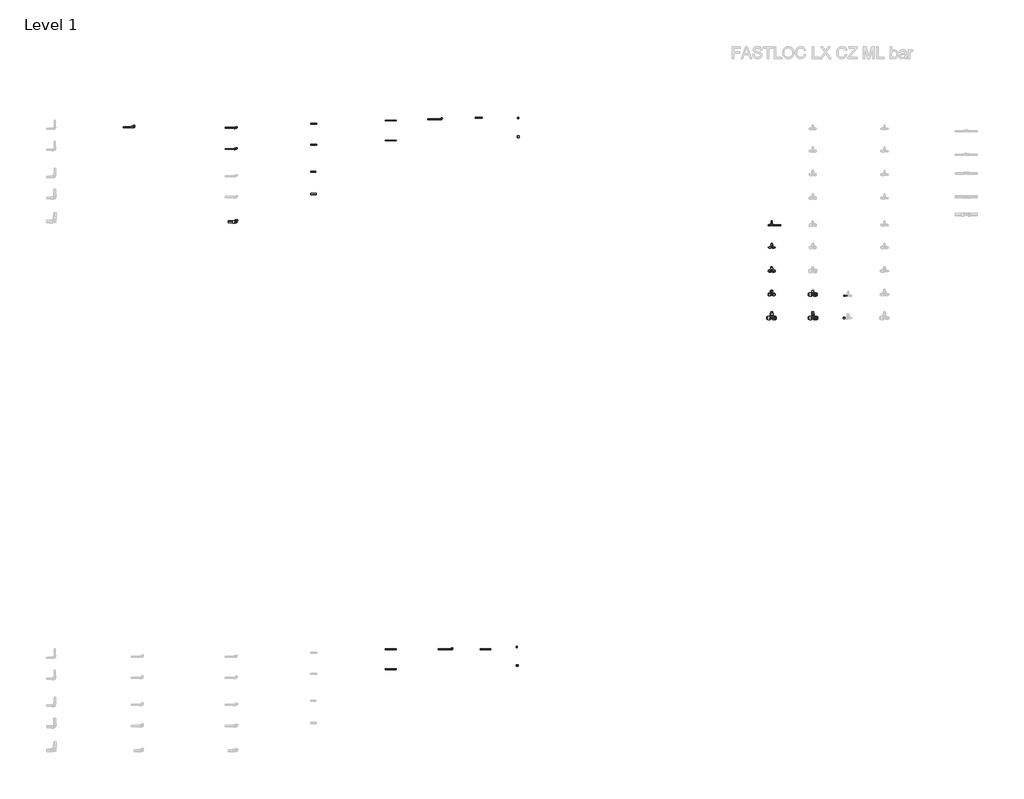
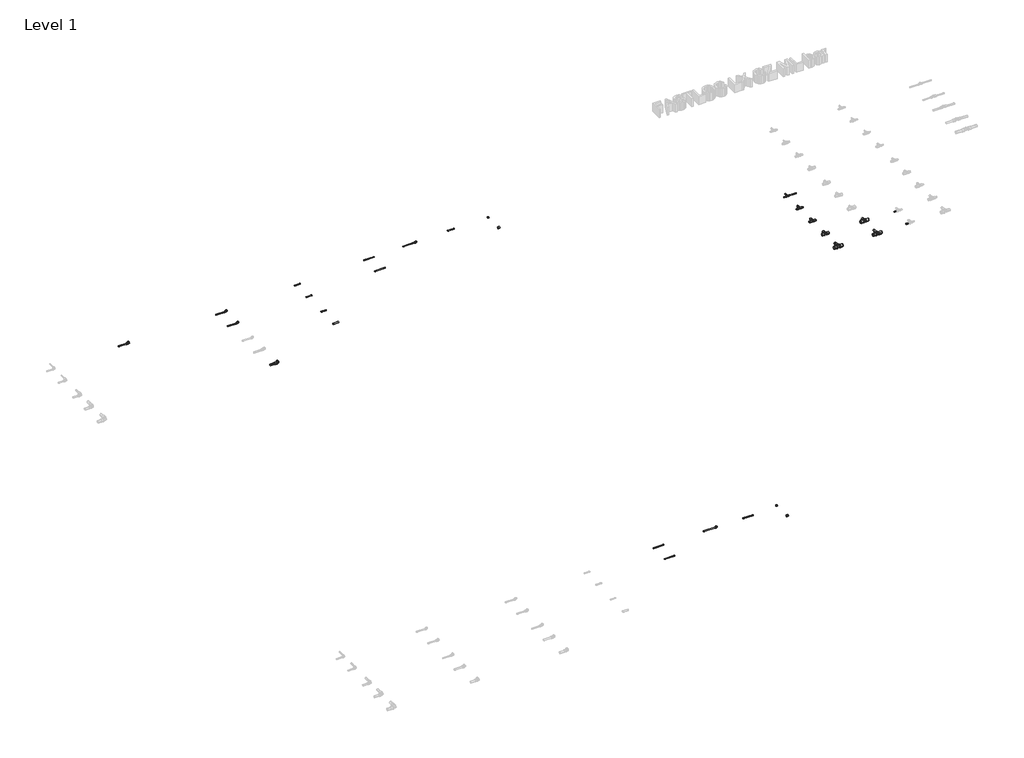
# One storey, part 28 of 78: 40 pipe segments, 17 pipe fittings.
"""IFC4 building model written with IfcOpenShell, lengths in millimetres."""

from ifc_helpers import new_model, si_unit, point, frame, frame_2d, origin, place, context, project, spatial, circle_curve, trimmed, segment, composite_curve, outline, extrude, transform, mapped, element, save
from components import pipe_fitting_ec6341fa, pipe_fitting_8d4eabeb, pipe_fitting_91101529, pipe_fitting_d1609a9c, pipe_fitting_c3764643, pipe_fitting_5e5f22e4, pipe_fitting_bded02bd, pipe_fitting_da5243fc, pipe_fitting_29102c59, pipe_fitting_564e9d2e, pipe_fitting_15165f03, pipe_fitting_7e3be5b8, pipe_fitting_24e9e25e

model = new_model("IFC4")

# Units and contexts
model_context = context("Model", 3, world=origin())
ifc_project = project(units=[si_unit("LENGTHUNIT", "METRE", prefix="MILLI")], contexts=[model_context])

# Site, building, storey
site = spatial("IfcSite", under=ifc_project)
building = spatial("IfcBuilding", under=site)
storey = spatial("IfcBuildingStorey", under=building, Name="Level 1", Elevation=0.0)

# Pipe fittings
placement = place(None, origin())
pipe_fitting_shape = pipe_fitting_ec6341fa(model_context)
element("IfcPipeFitting", 1, ObjectType="FASTLOC_Blanking plug LX : FSL Bp LX HU", at=placement, inside=storey, context=model_context, shape_type="MappedRepresentation", body=[
    mapped(pipe_fitting_shape, transform((19415.4857845, -1056.0968766, 0.0), x_axis=(1.0, 0.0, 0.0), y_axis=(0.0, 1.0, 0.0), z_axis=(0.0, 0.0, 1.0))),
])
element("IfcPipeFitting", 2, ObjectType="FASTLOC_Blanking plug LX : FSL Bp LX UA", at=placement, inside=storey, context=model_context, shape_type="MappedRepresentation", body=[
    mapped(pipe_fitting_shape, transform((19395.4857845, -10056.0968766, 0.0), x_axis=(1.0, 0.0, 0.0), y_axis=(0.0, 1.0, 0.0), z_axis=(0.0, 0.0, 1.0))),
])
pipe_fitting_2_shape = pipe_fitting_8d4eabeb(model_context)
element("IfcPipeFitting", 3, ObjectType="FASTLOC_Elbow with female thread LX : FSL A internal HU", at=placement, inside=storey, context=model_context, shape_type="MappedRepresentation", body=[
    mapped(pipe_fitting_2_shape, transform((14636.9744513, -1224.4914884, 0.0), x_axis=(1.0, 0.0, 0.0), y_axis=(0.0, 1.0, 0.0), z_axis=(0.0, 0.0, 1.0))),
])
element("IfcPipeFitting", 4, ObjectType="FASTLOC_Elbow with female thread LX : FSL A internal HU", at=placement, inside=storey, context=model_context, shape_type="MappedRepresentation", body=[
    mapped(pipe_fitting_2_shape, transform((14636.9744513, -1584.4914884, 0.0), x_axis=(1.0, 0.0, 0.0), y_axis=(0.0, 1.0, 0.0), z_axis=(0.0, 0.0, 1.0))),
])
pipe_fitting_3_shape = pipe_fitting_91101529(model_context)
element("IfcPipeFitting", 5, ObjectType="FASTLOC_Elbow with male thread G LX : FSL A internal HU", at=placement, inside=storey, context=model_context, shape_type="MappedRepresentation", body=[
    mapped(pipe_fitting_3_shape, transform((18126.4652849, -1078.1248705, 0.0), x_axis=(1.0, 0.0, 0.0), y_axis=(0.0, 1.0, 0.0), z_axis=(0.0, 0.0, 1.0))),
])
element("IfcPipeFitting", 6, ObjectType="FASTLOC_Elbow with male thread G LX : FSL A internal UA", at=placement, inside=storey, context=model_context, shape_type="MappedRepresentation", body=[
    mapped(pipe_fitting_3_shape, transform((18309.8872386, -10096.2087381, 0.0), x_axis=(1.0, 0.0, 0.0), y_axis=(0.0, 1.0, 0.0), z_axis=(0.0, 0.0, 1.0))),
])
pipe_fitting_4_shape = pipe_fitting_d1609a9c(model_context)
element("IfcPipeFitting", 7, ObjectType="FASTLOC_T-piece_LX : FSL T-Piece LX CZ", at=placement, inside=storey, context=model_context, shape_type="MappedRepresentation", body=[
    mapped(pipe_fitting_4_shape, transform((23743.8683677, -2880.2405791, 0.0), x_axis=(1.0, 0.0, 0.0), y_axis=(0.0, 1.0, 0.0), z_axis=(0.0, 0.0, 1.0))),
])
pipe_fitting_5_shape = pipe_fitting_c3764643(model_context)
element("IfcPipeFitting", 8, ObjectType="FASTLOC_Elbow with female thread LX : FSL A internal HU", at=placement, inside=storey, context=model_context, shape_type="MappedRepresentation", body=[
    mapped(pipe_fitting_5_shape, transform((14636.9744513, -2824.4914884, 0.0), x_axis=(1.0, 0.0, 0.0), y_axis=(0.0, 1.0, 0.0), z_axis=(0.0, 0.0, 1.0))),
])
pipe_fitting_6_shape = pipe_fitting_5e5f22e4(model_context)
element("IfcPipeFitting", 9, ObjectType="FASTLOC_Elbow with male thread LX : FSL A internal HU", at=placement, inside=storey, context=model_context, shape_type="MappedRepresentation", body=[
    mapped(pipe_fitting_6_shape, transform((12895.0981783, -1211.4287043, 0.0), x_axis=(1.0, 0.0, 0.0), y_axis=(0.0, 1.0, 0.0), z_axis=(0.0, 0.0, 1.0))),
])
pipe_fitting_7_shape = pipe_fitting_bded02bd(model_context)
element("IfcPipeFitting", 10, ObjectType="FASTLOC_T-piece_LX : FSL T-Piece LX CZ", at=placement, inside=storey, context=model_context, shape_type="MappedRepresentation", body=[
    mapped(pipe_fitting_7_shape, transform((23743.8683677, -3260.2405791, 0.0), x_axis=(1.0, 0.0, 0.0), y_axis=(0.0, 1.0, 0.0), z_axis=(0.0, 0.0, 1.0))),
])
pipe_fitting_8_shape = pipe_fitting_da5243fc(model_context)
element("IfcPipeFitting", 11, ObjectType="FASTLOC_T-piece_LX : FSL T-Piece LX CZ", at=placement, inside=storey, context=model_context, shape_type="MappedRepresentation", body=[
    mapped(pipe_fitting_8_shape, transform((23743.8683677, -3660.2405791, 0.0), x_axis=(1.0, 0.0, 0.0), y_axis=(0.0, 1.0, 0.0), z_axis=(0.0, 0.0, 1.0))),
])
pipe_fitting_9_shape = pipe_fitting_29102c59(model_context)
element("IfcPipeFitting", 12, ObjectType="FASTLOC_T-piece_LX : FSL T-Piece LX CZ", at=placement, inside=storey, context=model_context, shape_type="MappedRepresentation", body=[
    mapped(pipe_fitting_9_shape, transform((23743.8683677, -4060.2405791, 0.0), x_axis=(1.0, 0.0, 0.0), y_axis=(0.0, 1.0, 0.0), z_axis=(0.0, 0.0, 1.0))),
])
pipe_fitting_10_shape = pipe_fitting_564e9d2e(model_context)
element("IfcPipeFitting", 13, ObjectType="FASTLOC_T-piece_LX : FSL T-Piece LX CZ", at=placement, inside=storey, context=model_context, shape_type="MappedRepresentation", body=[
    mapped(pipe_fitting_10_shape, transform((23743.8683677, -4460.2405791, 0.0), x_axis=(1.0, 0.0, 0.0), y_axis=(0.0, 1.0, 0.0), z_axis=(0.0, 0.0, 1.0))),
])
pipe_fitting_11_shape = pipe_fitting_15165f03(model_context)
element("IfcPipeFitting", 14, ObjectType="FASTLOC_T-piece_LX : FSL T-Piece LX CZ", at=placement, inside=storey, context=model_context, shape_type="MappedRepresentation", body=[
    mapped(pipe_fitting_11_shape, transform((24443.8683677, -4060.2405791, 0.0), x_axis=(1.0, 0.0, 0.0), y_axis=(0.0, 1.0, 0.0), z_axis=(0.0, 0.0, 1.0))),
])
pipe_fitting_12_shape = pipe_fitting_7e3be5b8(model_context)
element("IfcPipeFitting", 15, ObjectType="FASTLOC_T-piece_LX : FSL T-Piece LX CZ", at=placement, inside=storey, context=model_context, shape_type="MappedRepresentation", body=[
    mapped(pipe_fitting_12_shape, transform((24443.8683677, -4460.2405791, 0.0), x_axis=(1.0, 0.0, 0.0), y_axis=(0.0, 1.0, 0.0), z_axis=(0.0, 0.0, 1.0))),
])
pipe_fitting_13_shape = pipe_fitting_24e9e25e(model_context)
element("IfcPipeFitting", 16, ObjectType="FASTLOC_Blanking plug LX : FSL Bp LX UA", at=placement, inside=storey, context=model_context, shape_type="MappedRepresentation", body=[
    mapped(pipe_fitting_13_shape, transform((19395.4857845, -10376.0968766, 0.0), x_axis=(1.0, 0.0, 0.0), y_axis=(0.0, 1.0, 0.0), z_axis=(0.0, 0.0, 1.0))),
])
element("IfcPipeFitting", 17, ObjectType="FASTLOC_Blanking plug LX : FSL Bp LX HU", at=placement, inside=storey, context=model_context, shape_type="MappedRepresentation", body=[
    mapped(pipe_fitting_13_shape, transform((19415.4857845, -1376.0968766, 0.0), x_axis=(1.0, 0.0, 0.0), y_axis=(0.0, 1.0, 0.0), z_axis=(0.0, 0.0, 1.0))),
])

# Pipe segments
element("IfcPipeSegment", 18, ObjectType="FASTLOC LX ML HU bar", at=placement, inside=storey, context=model_context, shape_type="SweptSolid", body=[
    extrude(outline(composite_curve([segment(trimmed(circle_curve(frame_2d((-1154.4604595, 0.0)), 8.0), [point((-1146.4604595, 0.0))], [point((-1154.4604595, -8.0))], False, "CARTESIAN"), True, "CONTINUOUS"), segment(trimmed(circle_curve(frame_2d((-1154.4604595, 0.0)), 8.0), [point((-1154.4604595, -8.0))], [point((-1162.4604595, 0.0))], False, "CARTESIAN"), True, "CONTINUOUS"), segment(trimmed(circle_curve(frame_2d((-1154.4604595, 0.0)), 8.0), [point((-1162.4604595, 0.0))], [point((-1154.4604595, 8.0))], False, "CARTESIAN"), True, "CONTINUOUS"), segment(trimmed(circle_curve(frame_2d((-1154.4604595, 0.0)), 8.0), [point((-1154.4604595, 8.0))], [point((-1146.4604595, 0.0))], False, "CARTESIAN"), True, "CONTINUOUS")], self_intersect=False)), frame((15898.9809397, 0.0, 0.0), z_axis=(1.0, 0.0, 0.0), x_axis=(0.0, 1.0, 0.0)), (0.0, 0.0, 1.0), 99.5),
])
element("IfcPipeSegment", 19, ObjectType="FASTLOC LX ML HU bar", at=placement, inside=storey, context=model_context, shape_type="SweptSolid", body=[
    extrude(outline(composite_curve([segment(trimmed(circle_curve(frame_2d((-1514.4604595, 0.0)), 8.0), [point((-1506.4604595, 0.0))], [point((-1514.4604595, -8.0))], False, "CARTESIAN"), True, "CONTINUOUS"), segment(trimmed(circle_curve(frame_2d((-1514.4604595, 0.0)), 8.0), [point((-1514.4604595, -8.0))], [point((-1522.4604595, 0.0))], False, "CARTESIAN"), True, "CONTINUOUS"), segment(trimmed(circle_curve(frame_2d((-1514.4604595, 0.0)), 8.0), [point((-1522.4604595, 0.0))], [point((-1514.4604595, 8.0))], False, "CARTESIAN"), True, "CONTINUOUS"), segment(trimmed(circle_curve(frame_2d((-1514.4604595, 0.0)), 8.0), [point((-1514.4604595, 8.0))], [point((-1506.4604595, 0.0))], False, "CARTESIAN"), True, "CONTINUOUS")], self_intersect=False)), frame((15898.9809397, 0.0, 0.0), z_axis=(1.0, 0.0, 0.0), x_axis=(0.0, 1.0, 0.0)), (0.0, 0.0, 1.0), 99.6),
])
element("IfcPipeSegment", 20, ObjectType="FASTLOC LX ML HU bar", at=placement, inside=storey, context=model_context, shape_type="SweptSolid", body=[
    extrude(outline(composite_curve([segment(trimmed(circle_curve(frame_2d((-1056.0968766, 0.0)), 8.0), [point((-1064.0968766, 0.0))], [point((-1056.0968766, 8.0))], False, "CARTESIAN"), True, "CONTINUOUS"), segment(trimmed(circle_curve(frame_2d((-1056.0968766, 0.0)), 8.0), [point((-1056.0968766, 8.0))], [point((-1048.0968766, 0.0))], False, "CARTESIAN"), True, "CONTINUOUS"), segment(trimmed(circle_curve(frame_2d((-1056.0968766, 0.0)), 8.0), [point((-1048.0968766, 0.0))], [point((-1056.0968766, -8.0))], False, "CARTESIAN"), True, "CONTINUOUS"), segment(trimmed(circle_curve(frame_2d((-1056.0968766, 0.0)), 8.0), [point((-1056.0968766, -8.0))], [point((-1064.0968766, 0.0))], False, "CARTESIAN"), True, "CONTINUOUS")], self_intersect=False)), frame((19422.1857845, 0.0, 0.0), z_axis=(1.0, 0.0, 0.0), x_axis=(0.0, 1.0, 0.0)), (0.0, 0.0, 1.0), 14.0),
])
element("IfcPipeSegment", 21, ObjectType="FASTLOC LX ML HU bar", at=placement, inside=storey, context=model_context, shape_type="SweptSolid", body=[
    extrude(outline(composite_curve([segment(trimmed(circle_curve(frame_2d((-1974.4604595, 0.0)), 8.0), [point((-1966.4604595, 0.0))], [point((-1974.4604595, -8.0))], False, "CARTESIAN"), True, "CONTINUOUS"), segment(trimmed(circle_curve(frame_2d((-1974.4604595, 0.0)), 8.0), [point((-1974.4604595, -8.0))], [point((-1982.4604595, 0.0))], False, "CARTESIAN"), True, "CONTINUOUS"), segment(trimmed(circle_curve(frame_2d((-1974.4604595, 0.0)), 8.0), [point((-1982.4604595, 0.0))], [point((-1974.4604595, 8.0))], False, "CARTESIAN"), True, "CONTINUOUS"), segment(trimmed(circle_curve(frame_2d((-1974.4604595, 0.0)), 8.0), [point((-1974.4604595, 8.0))], [point((-1966.4604595, 0.0))], False, "CARTESIAN"), True, "CONTINUOUS")], self_intersect=False)), frame((15898.9809397, 0.0, 0.0), z_axis=(1.0, 0.0, 0.0), x_axis=(0.0, 1.0, 0.0)), (0.0, 0.0, 1.0), 89.6),
])
element("IfcPipeSegment", 22, ObjectType="FASTLOC LX ML HU bar", at=placement, inside=storey, context=model_context, shape_type="SweptSolid", body=[
    extrude(outline(composite_curve([segment(trimmed(circle_curve(frame_2d((-2350.4604595, 0.0)), 12.5), [point((-2337.9604595, 0.0))], [point((-2350.4604595, -12.5))], False, "CARTESIAN"), True, "CONTINUOUS"), segment(trimmed(circle_curve(frame_2d((-2350.4604595, 0.0)), 12.5), [point((-2350.4604595, -12.5))], [point((-2362.9604595, 0.0))], False, "CARTESIAN"), True, "CONTINUOUS"), segment(trimmed(circle_curve(frame_2d((-2350.4604595, 0.0)), 12.5), [point((-2362.9604595, 0.0))], [point((-2350.4604595, 12.5))], False, "CARTESIAN"), True, "CONTINUOUS"), segment(trimmed(circle_curve(frame_2d((-2350.4604595, 0.0)), 12.5), [point((-2350.4604595, 12.5))], [point((-2337.9604595, 0.0))], False, "CARTESIAN"), True, "CONTINUOUS")], self_intersect=False)), frame((15898.9809397, 0.0, 0.0), z_axis=(1.0, 0.0, 0.0), x_axis=(0.0, 1.0, 0.0)), (0.0, 0.0, 1.0), 95.4),
])
element("IfcPipeSegment", 23, ObjectType="FASTLOC LX ML HU bar", at=placement, inside=storey, context=model_context, shape_type="SweptSolid", body=[
    extrude(outline(composite_curve([segment(trimmed(circle_curve(frame_2d((-1099.4468766, 0.0)), 8.0), [point((-1091.4468766, 0.0))], [point((-1099.4468766, -8.0))], False, "CARTESIAN"), True, "CONTINUOUS"), segment(trimmed(circle_curve(frame_2d((-1099.4468766, 0.0)), 8.0), [point((-1099.4468766, -8.0))], [point((-1107.4468766, 0.0))], False, "CARTESIAN"), True, "CONTINUOUS"), segment(trimmed(circle_curve(frame_2d((-1099.4468766, 0.0)), 8.0), [point((-1107.4468766, 0.0))], [point((-1099.4468766, 8.0))], False, "CARTESIAN"), True, "CONTINUOUS"), segment(trimmed(circle_curve(frame_2d((-1099.4468766, 0.0)), 8.0), [point((-1099.4468766, 8.0))], [point((-1091.4468766, 0.0))], False, "CARTESIAN"), True, "CONTINUOUS")], self_intersect=False)), frame((17170.7335921, 0.0, 0.0), z_axis=(1.0, 0.0, 0.0), x_axis=(0.0, 1.0, 0.0)), (0.0, 0.0, 1.0), 185.0),
])
element("IfcPipeSegment", 24, ObjectType="FASTLOC LX ML HU bar", at=placement, inside=storey, context=model_context, shape_type="SweptSolid", body=[
    extrude(outline(composite_curve([segment(trimmed(circle_curve(frame_2d((-1439.4468766, 0.0)), 8.0), [point((-1431.4468766, 0.0))], [point((-1439.4468766, -8.0))], False, "CARTESIAN"), True, "CONTINUOUS"), segment(trimmed(circle_curve(frame_2d((-1439.4468766, 0.0)), 8.0), [point((-1439.4468766, -8.0))], [point((-1447.4468766, 0.0))], False, "CARTESIAN"), True, "CONTINUOUS"), segment(trimmed(circle_curve(frame_2d((-1439.4468766, 0.0)), 8.0), [point((-1447.4468766, 0.0))], [point((-1439.4468766, 8.0))], False, "CARTESIAN"), True, "CONTINUOUS"), segment(trimmed(circle_curve(frame_2d((-1439.4468766, 0.0)), 8.0), [point((-1439.4468766, 8.0))], [point((-1431.4468766, 0.0))], False, "CARTESIAN"), True, "CONTINUOUS")], self_intersect=False)), frame((17170.7335921, 0.0, 0.0), z_axis=(1.0, 0.0, 0.0), x_axis=(0.0, 1.0, 0.0)), (0.0, 0.0, 1.0), 185.0),
])
element("IfcPipeSegment", 25, ObjectType="FASTLOC LX ML HU bar", at=placement, inside=storey, context=model_context, shape_type="SweptSolid", body=[
    extrude(outline(composite_curve([segment(trimmed(circle_curve(frame_2d((-1224.4914884, 0.0)), 8.0), [point((-1216.4914884, 0.0))], [point((-1224.4914884, -8.0))], False, "CARTESIAN"), True, "CONTINUOUS"), segment(trimmed(circle_curve(frame_2d((-1224.4914884, 0.0)), 8.0), [point((-1224.4914884, -8.0))], [point((-1232.4914884, 0.0))], False, "CARTESIAN"), True, "CONTINUOUS"), segment(trimmed(circle_curve(frame_2d((-1224.4914884, 0.0)), 8.0), [point((-1232.4914884, 0.0))], [point((-1224.4914884, 8.0))], False, "CARTESIAN"), True, "CONTINUOUS"), segment(trimmed(circle_curve(frame_2d((-1224.4914884, 0.0)), 8.0), [point((-1224.4914884, 8.0))], [point((-1216.4914884, 0.0))], False, "CARTESIAN"), True, "CONTINUOUS")], self_intersect=False)), frame((14446.7744513, 0.0, 0.0), z_axis=(1.0, 0.0, 0.0), x_axis=(0.0, 1.0, 0.0)), (0.0, 0.0, 1.0), 170.0),
])
element("IfcPipeSegment", 26, ObjectType="FASTLOC LX ML HU bar", at=placement, inside=storey, context=model_context, shape_type="SweptSolid", body=[
    extrude(outline(composite_curve([segment(trimmed(circle_curve(frame_2d((-1584.4914884, 0.0)), 8.0), [point((-1576.4914884, 0.0))], [point((-1584.4914884, -8.0))], False, "CARTESIAN"), True, "CONTINUOUS"), segment(trimmed(circle_curve(frame_2d((-1584.4914884, 0.0)), 8.0), [point((-1584.4914884, -8.0))], [point((-1592.4914884, 0.0))], False, "CARTESIAN"), True, "CONTINUOUS"), segment(trimmed(circle_curve(frame_2d((-1584.4914884, 0.0)), 8.0), [point((-1592.4914884, 0.0))], [point((-1584.4914884, 8.0))], False, "CARTESIAN"), True, "CONTINUOUS"), segment(trimmed(circle_curve(frame_2d((-1584.4914884, 0.0)), 8.0), [point((-1584.4914884, 8.0))], [point((-1576.4914884, 0.0))], False, "CARTESIAN"), True, "CONTINUOUS")], self_intersect=False)), frame((14446.7744513, 0.0, 0.0), z_axis=(1.0, 0.0, 0.0), x_axis=(0.0, 1.0, 0.0)), (0.0, 0.0, 1.0), 170.0),
])
element("IfcPipeSegment", 27, ObjectType="FASTLOC LX ML HU bar", at=placement, inside=storey, context=model_context, shape_type="SweptSolid", body=[
    extrude(outline(composite_curve([segment(trimmed(circle_curve(frame_2d((-2824.4914884, 0.0)), 16.0), [point((-2808.4914884, 0.0))], [point((-2824.4914884, -16.0))], False, "CARTESIAN"), True, "CONTINUOUS"), segment(trimmed(circle_curve(frame_2d((-2824.4914884, 0.0)), 16.0), [point((-2824.4914884, -16.0))], [point((-2840.4914884, 0.0))], False, "CARTESIAN"), True, "CONTINUOUS"), segment(trimmed(circle_curve(frame_2d((-2824.4914884, 0.0)), 16.0), [point((-2840.4914884, 0.0))], [point((-2824.4914884, 16.0))], False, "CARTESIAN"), True, "CONTINUOUS"), segment(trimmed(circle_curve(frame_2d((-2824.4914884, 0.0)), 16.0), [point((-2824.4914884, 16.0))], [point((-2808.4914884, 0.0))], False, "CARTESIAN"), True, "CONTINUOUS")], self_intersect=False)), frame((14494.8744513, 0.0, 0.0), z_axis=(1.0, 0.0, 0.0), x_axis=(0.0, 1.0, 0.0)), (0.0, 0.0, 1.0), 110.1),
])
element("IfcPipeSegment", 28, ObjectType="FASTLOC LX ML UA bar", at=placement, inside=storey, context=model_context, shape_type="SweptSolid", body=[
    extrude(outline(composite_curve([segment(trimmed(circle_curve(frame_2d((-10056.0968766, 0.0)), 8.0), [point((-10064.0968766, 0.0))], [point((-10056.0968766, 8.0))], False, "CARTESIAN"), True, "CONTINUOUS"), segment(trimmed(circle_curve(frame_2d((-10056.0968766, 0.0)), 8.0), [point((-10056.0968766, 8.0))], [point((-10048.0968766, 0.0))], False, "CARTESIAN"), True, "CONTINUOUS"), segment(trimmed(circle_curve(frame_2d((-10056.0968766, 0.0)), 8.0), [point((-10048.0968766, 0.0))], [point((-10056.0968766, -8.0))], False, "CARTESIAN"), True, "CONTINUOUS"), segment(trimmed(circle_curve(frame_2d((-10056.0968766, 0.0)), 8.0), [point((-10056.0968766, -8.0))], [point((-10064.0968766, 0.0))], False, "CARTESIAN"), True, "CONTINUOUS")], self_intersect=False)), frame((19402.1857845, 0.0, 0.0), z_axis=(1.0, 0.0, 0.0), x_axis=(0.0, 1.0, 0.0)), (0.0, 0.0, 1.0), 14.0),
])
element("IfcPipeSegment", 29, ObjectType="FASTLOC LX ML UA bar", at=placement, inside=storey, context=model_context, shape_type="SweptSolid", body=[
    extrude(outline(composite_curve([segment(trimmed(circle_curve(frame_2d((-10099.4468766, 0.0)), 8.0), [point((-10091.4468766, 0.0))], [point((-10099.4468766, -8.0))], False, "CARTESIAN"), True, "CONTINUOUS"), segment(trimmed(circle_curve(frame_2d((-10099.4468766, 0.0)), 8.0), [point((-10099.4468766, -8.0))], [point((-10107.4468766, 0.0))], False, "CARTESIAN"), True, "CONTINUOUS"), segment(trimmed(circle_curve(frame_2d((-10099.4468766, 0.0)), 8.0), [point((-10107.4468766, 0.0))], [point((-10099.4468766, 8.0))], False, "CARTESIAN"), True, "CONTINUOUS"), segment(trimmed(circle_curve(frame_2d((-10099.4468766, 0.0)), 8.0), [point((-10099.4468766, 8.0))], [point((-10091.4468766, 0.0))], False, "CARTESIAN"), True, "CONTINUOUS")], self_intersect=False)), frame((17170.7335921, 0.0, 0.0), z_axis=(1.0, 0.0, 0.0), x_axis=(0.0, 1.0, 0.0)), (0.0, 0.0, 1.0), 185.0),
])
element("IfcPipeSegment", 30, ObjectType="FASTLOC LX ML UA bar", at=placement, inside=storey, context=model_context, shape_type="SweptSolid", body=[
    extrude(outline(composite_curve([segment(trimmed(circle_curve(frame_2d((-10439.4468766, 0.0)), 8.0), [point((-10431.4468766, 0.0))], [point((-10439.4468766, -8.0))], False, "CARTESIAN"), True, "CONTINUOUS"), segment(trimmed(circle_curve(frame_2d((-10439.4468766, 0.0)), 8.0), [point((-10439.4468766, -8.0))], [point((-10447.4468766, 0.0))], False, "CARTESIAN"), True, "CONTINUOUS"), segment(trimmed(circle_curve(frame_2d((-10439.4468766, 0.0)), 8.0), [point((-10447.4468766, 0.0))], [point((-10439.4468766, 8.0))], False, "CARTESIAN"), True, "CONTINUOUS"), segment(trimmed(circle_curve(frame_2d((-10439.4468766, 0.0)), 8.0), [point((-10439.4468766, 8.0))], [point((-10431.4468766, 0.0))], False, "CARTESIAN"), True, "CONTINUOUS")], self_intersect=False)), frame((17170.7335921, 0.0, 0.0), z_axis=(1.0, 0.0, 0.0), x_axis=(0.0, 1.0, 0.0)), (0.0, 0.0, 1.0), 185.0),
])
element("IfcPipeSegment", 31, ObjectType="FASTLOC LX ML CZ bar", at=placement, inside=storey, context=model_context, shape_type="SweptSolid", body=[
    extrude(outline(composite_curve([segment(trimmed(circle_curve(frame_2d((-2880.2405791, 0.0)), 8.0), [point((-2872.2405791, 0.0))], [point((-2880.2405791, -8.0))], False, "CARTESIAN"), True, "CONTINUOUS"), segment(trimmed(circle_curve(frame_2d((-2880.2405791, 0.0)), 8.0), [point((-2880.2405791, -8.0))], [point((-2888.2405791, 0.0))], False, "CARTESIAN"), True, "CONTINUOUS"), segment(trimmed(circle_curve(frame_2d((-2880.2405791, 0.0)), 8.0), [point((-2888.2405791, 0.0))], [point((-2880.2405791, 8.0))], False, "CARTESIAN"), True, "CONTINUOUS"), segment(trimmed(circle_curve(frame_2d((-2880.2405791, 0.0)), 8.0), [point((-2880.2405791, 8.0))], [point((-2872.2405791, 0.0))], False, "CARTESIAN"), True, "CONTINUOUS")], self_intersect=False)), frame((23681.8683677, 0.0, 0.0), z_axis=(1.0, 0.0, 0.0), x_axis=(0.0, 1.0, 0.0)), (0.0, 0.0, 1.0), 47.0),
])
element("IfcPipeSegment", 32, ObjectType="FASTLOC LX ML CZ bar", at=placement, inside=storey, context=model_context, shape_type="SweptSolid", body=[
    extrude(outline(composite_curve([segment(trimmed(circle_curve(frame_2d((0.0, 23743.8683677)), 8.0), [point((0.0, 23751.8683677))], [point((8.0, 23743.8683677))], False, "CARTESIAN"), True, "CONTINUOUS"), segment(trimmed(circle_curve(frame_2d((0.0, 23743.8683677)), 8.0), [point((8.0, 23743.8683677))], [point((0.0, 23735.8683677))], False, "CARTESIAN"), True, "CONTINUOUS"), segment(trimmed(circle_curve(frame_2d((0.0, 23743.8683677)), 8.0), [point((0.0, 23735.8683677))], [point((-8.0, 23743.8683677))], False, "CARTESIAN"), True, "CONTINUOUS"), segment(trimmed(circle_curve(frame_2d((0.0, 23743.8683677)), 8.0), [point((-8.0, 23743.8683677))], [point((0.0, 23751.8683677))], False, "CARTESIAN"), True, "CONTINUOUS")], self_intersect=False)), frame((0.0, -2858.1405791, 0.0), z_axis=(0.0, 1.0, 0.0), x_axis=(0.0, 0.0, 1.0)), (0.0, 0.0, 1.0), 50.2),
])
element("IfcPipeSegment", 33, ObjectType="FASTLOC LX ML CZ bar", at=placement, inside=storey, context=model_context, shape_type="SweptSolid", body=[
    extrude(outline(composite_curve([segment(trimmed(circle_curve(frame_2d((-3260.2405791, 0.0)), 8.0), [point((-3268.2405791, 0.0))], [point((-3260.2405791, 8.0))], False, "CARTESIAN"), True, "CONTINUOUS"), segment(trimmed(circle_curve(frame_2d((-3260.2405791, 0.0)), 8.0), [point((-3260.2405791, 8.0))], [point((-3252.2405791, 0.0))], False, "CARTESIAN"), True, "CONTINUOUS"), segment(trimmed(circle_curve(frame_2d((-3260.2405791, 0.0)), 8.0), [point((-3252.2405791, 0.0))], [point((-3260.2405791, -8.0))], False, "CARTESIAN"), True, "CONTINUOUS"), segment(trimmed(circle_curve(frame_2d((-3260.2405791, 0.0)), 8.0), [point((-3260.2405791, -8.0))], [point((-3268.2405791, 0.0))], False, "CARTESIAN"), True, "CONTINUOUS")], self_intersect=False)), frame((23761.0683677, 0.0, 0.0), z_axis=(1.0, 0.0, 0.0), x_axis=(0.0, 1.0, 0.0)), (0.0, 0.0, 1.0), 44.8),
])
element("IfcPipeSegment", 34, ObjectType="FASTLOC LX ML CZ bar", at=placement, inside=storey, context=model_context, shape_type="SweptSolid", body=[
    extrude(outline(composite_curve([segment(trimmed(circle_curve(frame_2d((-3260.2405791, 0.0)), 8.0), [point((-3252.2405791, 0.0))], [point((-3260.2405791, -8.0))], False, "CARTESIAN"), True, "CONTINUOUS"), segment(trimmed(circle_curve(frame_2d((-3260.2405791, 0.0)), 8.0), [point((-3260.2405791, -8.0))], [point((-3268.2405791, 0.0))], False, "CARTESIAN"), True, "CONTINUOUS"), segment(trimmed(circle_curve(frame_2d((-3260.2405791, 0.0)), 8.0), [point((-3268.2405791, 0.0))], [point((-3260.2405791, 8.0))], False, "CARTESIAN"), True, "CONTINUOUS"), segment(trimmed(circle_curve(frame_2d((-3260.2405791, 0.0)), 8.0), [point((-3260.2405791, 8.0))], [point((-3252.2405791, 0.0))], False, "CARTESIAN"), True, "CONTINUOUS")], self_intersect=False)), frame((23681.8683677, 0.0, 0.0), z_axis=(1.0, 0.0, 0.0), x_axis=(0.0, 1.0, 0.0)), (0.0, 0.0, 1.0), 44.8),
])
element("IfcPipeSegment", 35, ObjectType="FASTLOC LX ML CZ bar", at=placement, inside=storey, context=model_context, shape_type="SweptSolid", body=[
    extrude(outline(composite_curve([segment(trimmed(circle_curve(frame_2d((0.0, 23743.8683677)), 8.0), [point((0.0, 23751.8683677))], [point((8.0, 23743.8683677))], False, "CARTESIAN"), True, "CONTINUOUS"), segment(trimmed(circle_curve(frame_2d((0.0, 23743.8683677)), 8.0), [point((8.0, 23743.8683677))], [point((0.0, 23735.8683677))], False, "CARTESIAN"), True, "CONTINUOUS"), segment(trimmed(circle_curve(frame_2d((0.0, 23743.8683677)), 8.0), [point((0.0, 23735.8683677))], [point((-8.0, 23743.8683677))], False, "CARTESIAN"), True, "CONTINUOUS"), segment(trimmed(circle_curve(frame_2d((0.0, 23743.8683677)), 8.0), [point((-8.0, 23743.8683677))], [point((0.0, 23751.8683677))], False, "CARTESIAN"), True, "CONTINUOUS")], self_intersect=False)), frame((0.0, -3233.8405791, 0.0), z_axis=(0.0, 1.0, 0.0), x_axis=(0.0, 0.0, 1.0)), (0.0, 0.0, 1.0), 45.9),
])
element("IfcPipeSegment", 36, ObjectType="FASTLOC LX ML CZ bar", at=placement, inside=storey, context=model_context, shape_type="SweptSolid", body=[
    extrude(outline(composite_curve([segment(trimmed(circle_curve(frame_2d((-3660.2405791, 0.0)), 12.5), [point((-3672.7405791, 0.0))], [point((-3660.2405791, 12.5))], False, "CARTESIAN"), True, "CONTINUOUS"), segment(trimmed(circle_curve(frame_2d((-3660.2405791, 0.0)), 12.5), [point((-3660.2405791, 12.5))], [point((-3647.7405791, 0.0))], False, "CARTESIAN"), True, "CONTINUOUS"), segment(trimmed(circle_curve(frame_2d((-3660.2405791, 0.0)), 12.5), [point((-3647.7405791, 0.0))], [point((-3660.2405791, -12.5))], False, "CARTESIAN"), True, "CONTINUOUS"), segment(trimmed(circle_curve(frame_2d((-3660.2405791, 0.0)), 12.5), [point((-3660.2405791, -12.5))], [point((-3672.7405791, 0.0))], False, "CARTESIAN"), True, "CONTINUOUS")], self_intersect=False)), frame((23763.7683677, 0.0, 0.0), z_axis=(1.0, 0.0, 0.0), x_axis=(0.0, 1.0, 0.0)), (0.0, 0.0, 1.0), 42.1),
])
element("IfcPipeSegment", 37, ObjectType="FASTLOC LX ML CZ bar", at=placement, inside=storey, context=model_context, shape_type="SweptSolid", body=[
    extrude(outline(composite_curve([segment(trimmed(circle_curve(frame_2d((-3660.2405791, 0.0)), 12.5), [point((-3647.7405791, 0.0))], [point((-3660.2405791, -12.5))], False, "CARTESIAN"), True, "CONTINUOUS"), segment(trimmed(circle_curve(frame_2d((-3660.2405791, 0.0)), 12.5), [point((-3660.2405791, -12.5))], [point((-3672.7405791, 0.0))], False, "CARTESIAN"), True, "CONTINUOUS"), segment(trimmed(circle_curve(frame_2d((-3660.2405791, 0.0)), 12.5), [point((-3672.7405791, 0.0))], [point((-3660.2405791, 12.5))], False, "CARTESIAN"), True, "CONTINUOUS"), segment(trimmed(circle_curve(frame_2d((-3660.2405791, 0.0)), 12.5), [point((-3660.2405791, 12.5))], [point((-3647.7405791, 0.0))], False, "CARTESIAN"), True, "CONTINUOUS")], self_intersect=False)), frame((23681.8683677, 0.0, 0.0), z_axis=(1.0, 0.0, 0.0), x_axis=(0.0, 1.0, 0.0)), (0.0, 0.0, 1.0), 42.1),
])
element("IfcPipeSegment", 38, ObjectType="FASTLOC LX ML CZ bar", at=placement, inside=storey, context=model_context, shape_type="SweptSolid", body=[
    extrude(outline(composite_curve([segment(trimmed(circle_curve(frame_2d((0.0, 23743.8683677)), 12.5), [point((0.0, 23756.3683677))], [point((12.5, 23743.8683677))], False, "CARTESIAN"), True, "CONTINUOUS"), segment(trimmed(circle_curve(frame_2d((0.0, 23743.8683677)), 12.5), [point((12.5, 23743.8683677))], [point((0.0, 23731.3683677))], False, "CARTESIAN"), True, "CONTINUOUS"), segment(trimmed(circle_curve(frame_2d((0.0, 23743.8683677)), 12.5), [point((0.0, 23731.3683677))], [point((-12.5, 23743.8683677))], False, "CARTESIAN"), True, "CONTINUOUS"), segment(trimmed(circle_curve(frame_2d((0.0, 23743.8683677)), 12.5), [point((-12.5, 23743.8683677))], [point((0.0, 23756.3683677))], False, "CARTESIAN"), True, "CONTINUOUS")], self_intersect=False)), frame((0.0, -3630.7405791, 0.0), z_axis=(0.0, 1.0, 0.0), x_axis=(0.0, 0.0, 1.0)), (0.0, 0.0, 1.0), 42.8),
])
element("IfcPipeSegment", 39, ObjectType="FASTLOC LX ML CZ bar", at=placement, inside=storey, context=model_context, shape_type="SweptSolid", body=[
    extrude(outline(composite_curve([segment(trimmed(circle_curve(frame_2d((-4060.2405791, 0.0)), 16.0), [point((-4076.2405791, 0.0))], [point((-4060.2405791, 16.0))], False, "CARTESIAN"), True, "CONTINUOUS"), segment(trimmed(circle_curve(frame_2d((-4060.2405791, 0.0)), 16.0), [point((-4060.2405791, 16.0))], [point((-4044.2405791, 0.0))], False, "CARTESIAN"), True, "CONTINUOUS"), segment(trimmed(circle_curve(frame_2d((-4060.2405791, 0.0)), 16.0), [point((-4044.2405791, 0.0))], [point((-4060.2405791, -16.0))], False, "CARTESIAN"), True, "CONTINUOUS"), segment(trimmed(circle_curve(frame_2d((-4060.2405791, 0.0)), 16.0), [point((-4060.2405791, -16.0))], [point((-4076.2405791, 0.0))], False, "CARTESIAN"), True, "CONTINUOUS")], self_intersect=False)), frame((23768.6683677, 0.0, 0.0), z_axis=(1.0, 0.0, 0.0), x_axis=(0.0, 1.0, 0.0)), (0.0, 0.0, 1.0), 37.2),
])
element("IfcPipeSegment", 40, ObjectType="FASTLOC LX ML CZ bar", at=placement, inside=storey, context=model_context, shape_type="SweptSolid", body=[
    extrude(outline(composite_curve([segment(trimmed(circle_curve(frame_2d((-4060.2405791, 0.0)), 16.0), [point((-4044.2405791, 0.0))], [point((-4060.2405791, -16.0))], False, "CARTESIAN"), True, "CONTINUOUS"), segment(trimmed(circle_curve(frame_2d((-4060.2405791, 0.0)), 16.0), [point((-4060.2405791, -16.0))], [point((-4076.2405791, 0.0))], False, "CARTESIAN"), True, "CONTINUOUS"), segment(trimmed(circle_curve(frame_2d((-4060.2405791, 0.0)), 16.0), [point((-4076.2405791, 0.0))], [point((-4060.2405791, 16.0))], False, "CARTESIAN"), True, "CONTINUOUS"), segment(trimmed(circle_curve(frame_2d((-4060.2405791, 0.0)), 16.0), [point((-4060.2405791, 16.0))], [point((-4044.2405791, 0.0))], False, "CARTESIAN"), True, "CONTINUOUS")], self_intersect=False)), frame((23681.8683677, 0.0, 0.0), z_axis=(1.0, 0.0, 0.0), x_axis=(0.0, 1.0, 0.0)), (0.0, 0.0, 1.0), 37.2),
])
element("IfcPipeSegment", 41, ObjectType="FASTLOC LX ML CZ bar", at=placement, inside=storey, context=model_context, shape_type="SweptSolid", body=[
    extrude(outline(composite_curve([segment(trimmed(circle_curve(frame_2d((0.0, 23743.8683677)), 16.0), [point((0.0, 23759.8683677))], [point((16.0, 23743.8683677))], False, "CARTESIAN"), True, "CONTINUOUS"), segment(trimmed(circle_curve(frame_2d((0.0, 23743.8683677)), 16.0), [point((16.0, 23743.8683677))], [point((0.0, 23727.8683677))], False, "CARTESIAN"), True, "CONTINUOUS"), segment(trimmed(circle_curve(frame_2d((0.0, 23743.8683677)), 16.0), [point((0.0, 23727.8683677))], [point((-16.0, 23743.8683677))], False, "CARTESIAN"), True, "CONTINUOUS"), segment(trimmed(circle_curve(frame_2d((0.0, 23743.8683677)), 16.0), [point((-16.0, 23743.8683677))], [point((0.0, 23759.8683677))], False, "CARTESIAN"), True, "CONTINUOUS")], self_intersect=False)), frame((0.0, -4024.1405791, 0.0), z_axis=(0.0, 1.0, 0.0), x_axis=(0.0, 0.0, 1.0)), (0.0, 0.0, 1.0), 36.2),
])
element("IfcPipeSegment", 42, ObjectType="FASTLOC LX ML CZ bar", at=placement, inside=storey, context=model_context, shape_type="SweptSolid", body=[
    extrude(outline(composite_curve([segment(trimmed(circle_curve(frame_2d((-4460.2405791, 0.0)), 20.0), [point((-4480.2405791, 0.0))], [point((-4460.2405791, 20.0))], False, "CARTESIAN"), True, "CONTINUOUS"), segment(trimmed(circle_curve(frame_2d((-4460.2405791, 0.0)), 20.0), [point((-4460.2405791, 20.0))], [point((-4440.2405791, 0.0))], False, "CARTESIAN"), True, "CONTINUOUS"), segment(trimmed(circle_curve(frame_2d((-4460.2405791, 0.0)), 20.0), [point((-4440.2405791, 0.0))], [point((-4460.2405791, -20.0))], False, "CARTESIAN"), True, "CONTINUOUS"), segment(trimmed(circle_curve(frame_2d((-4460.2405791, 0.0)), 20.0), [point((-4460.2405791, -20.0))], [point((-4480.2405791, 0.0))], False, "CARTESIAN"), True, "CONTINUOUS")], self_intersect=False)), frame((23775.2683677, 0.0, 0.0), z_axis=(1.0, 0.0, 0.0), x_axis=(0.0, 1.0, 0.0)), (0.0, 0.0, 1.0), 50.0),
])
element("IfcPipeSegment", 43, ObjectType="FASTLOC LX ML CZ bar", at=placement, inside=storey, context=model_context, shape_type="SweptSolid", body=[
    extrude(outline(composite_curve([segment(trimmed(circle_curve(frame_2d((-4460.2405791, 0.0)), 20.0), [point((-4440.2405791, 0.0))], [point((-4460.2405791, -20.0))], False, "CARTESIAN"), True, "CONTINUOUS"), segment(trimmed(circle_curve(frame_2d((-4460.2405791, 0.0)), 20.0), [point((-4460.2405791, -20.0))], [point((-4480.2405791, 0.0))], False, "CARTESIAN"), True, "CONTINUOUS"), segment(trimmed(circle_curve(frame_2d((-4460.2405791, 0.0)), 20.0), [point((-4480.2405791, 0.0))], [point((-4460.2405791, 20.0))], False, "CARTESIAN"), True, "CONTINUOUS"), segment(trimmed(circle_curve(frame_2d((-4460.2405791, 0.0)), 20.0), [point((-4460.2405791, 20.0))], [point((-4440.2405791, 0.0))], False, "CARTESIAN"), True, "CONTINUOUS")], self_intersect=False)), frame((23662.4683677, 0.0, 0.0), z_axis=(1.0, 0.0, 0.0), x_axis=(0.0, 1.0, 0.0)), (0.0, 0.0, 1.0), 50.0),
])
element("IfcPipeSegment", 44, ObjectType="FASTLOC LX ML CZ bar", at=placement, inside=storey, context=model_context, shape_type="SweptSolid", body=[
    extrude(outline(composite_curve([segment(trimmed(circle_curve(frame_2d((0.0, 23743.8683677)), 20.0), [point((0.0, 23763.8683677))], [point((20.0, 23743.8683677))], False, "CARTESIAN"), True, "CONTINUOUS"), segment(trimmed(circle_curve(frame_2d((0.0, 23743.8683677)), 20.0), [point((20.0, 23743.8683677))], [point((0.0, 23723.8683677))], False, "CARTESIAN"), True, "CONTINUOUS"), segment(trimmed(circle_curve(frame_2d((0.0, 23743.8683677)), 20.0), [point((0.0, 23723.8683677))], [point((-20.0, 23743.8683677))], False, "CARTESIAN"), True, "CONTINUOUS"), segment(trimmed(circle_curve(frame_2d((0.0, 23743.8683677)), 20.0), [point((-20.0, 23743.8683677))], [point((0.0, 23763.8683677))], False, "CARTESIAN"), True, "CONTINUOUS")], self_intersect=False)), frame((0.0, -4415.5405791, 0.0), z_axis=(0.0, 1.0, 0.0), x_axis=(0.0, 0.0, 1.0)), (0.0, 0.0, 1.0), 62.9),
])
element("IfcPipeSegment", 45, ObjectType="FASTLOC LX ML CZ bar", at=placement, inside=storey, context=model_context, shape_type="SweptSolid", body=[
    extrude(outline(composite_curve([segment(trimmed(circle_curve(frame_2d((-4060.2405791, 0.0)), 20.0), [point((-4080.2405791, 0.0))], [point((-4060.2405791, 20.0))], False, "CARTESIAN"), True, "CONTINUOUS"), segment(trimmed(circle_curve(frame_2d((-4060.2405791, 0.0)), 20.0), [point((-4060.2405791, 20.0))], [point((-4040.2405791, 0.0))], False, "CARTESIAN"), True, "CONTINUOUS"), segment(trimmed(circle_curve(frame_2d((-4060.2405791, 0.0)), 20.0), [point((-4040.2405791, 0.0))], [point((-4060.2405791, -20.0))], False, "CARTESIAN"), True, "CONTINUOUS"), segment(trimmed(circle_curve(frame_2d((-4060.2405791, 0.0)), 20.0), [point((-4060.2405791, -20.0))], [point((-4080.2405791, 0.0))], False, "CARTESIAN"), True, "CONTINUOUS")], self_intersect=False)), frame((24469.6683677, 0.0, 0.0), z_axis=(1.0, 0.0, 0.0), x_axis=(0.0, 1.0, 0.0)), (0.0, 0.0, 1.0), 47.8),
])
element("IfcPipeSegment", 46, ObjectType="FASTLOC LX ML CZ bar", at=placement, inside=storey, context=model_context, shape_type="SweptSolid", body=[
    extrude(outline(composite_curve([segment(trimmed(circle_curve(frame_2d((-4060.2405791, 0.0)), 20.0), [point((-4040.2405791, 0.0))], [point((-4060.2405791, -20.0))], False, "CARTESIAN"), True, "CONTINUOUS"), segment(trimmed(circle_curve(frame_2d((-4060.2405791, 0.0)), 20.0), [point((-4060.2405791, -20.0))], [point((-4080.2405791, 0.0))], False, "CARTESIAN"), True, "CONTINUOUS"), segment(trimmed(circle_curve(frame_2d((-4060.2405791, 0.0)), 20.0), [point((-4080.2405791, 0.0))], [point((-4060.2405791, 20.0))], False, "CARTESIAN"), True, "CONTINUOUS"), segment(trimmed(circle_curve(frame_2d((-4060.2405791, 0.0)), 20.0), [point((-4060.2405791, 20.0))], [point((-4040.2405791, 0.0))], False, "CARTESIAN"), True, "CONTINUOUS")], self_intersect=False)), frame((24370.2683677, 0.0, 0.0), z_axis=(1.0, 0.0, 0.0), x_axis=(0.0, 1.0, 0.0)), (0.0, 0.0, 1.0), 47.8),
])
element("IfcPipeSegment", 47, ObjectType="FASTLOC LX ML CZ bar", at=placement, inside=storey, context=model_context, shape_type="SweptSolid", body=[
    extrude(outline(composite_curve([segment(trimmed(circle_curve(frame_2d((-4460.2405791, 0.0)), 20.0), [point((-4480.2405791, 0.0))], [point((-4460.2405791, 20.0))], False, "CARTESIAN"), True, "CONTINUOUS"), segment(trimmed(circle_curve(frame_2d((-4460.2405791, 0.0)), 20.0), [point((-4460.2405791, 20.0))], [point((-4440.2405791, 0.0))], False, "CARTESIAN"), True, "CONTINUOUS"), segment(trimmed(circle_curve(frame_2d((-4460.2405791, 0.0)), 20.0), [point((-4440.2405791, 0.0))], [point((-4460.2405791, -20.0))], False, "CARTESIAN"), True, "CONTINUOUS"), segment(trimmed(circle_curve(frame_2d((-4460.2405791, 0.0)), 20.0), [point((-4460.2405791, -20.0))], [point((-4480.2405791, 0.0))], False, "CARTESIAN"), True, "CONTINUOUS")], self_intersect=False)), frame((24472.4683677, 0.0, 0.0), z_axis=(1.0, 0.0, 0.0), x_axis=(0.0, 1.0, 0.0)), (0.0, 0.0, 1.0), 52.8),
])
element("IfcPipeSegment", 48, ObjectType="FASTLOC LX ML CZ bar", at=placement, inside=storey, context=model_context, shape_type="SweptSolid", body=[
    extrude(outline(composite_curve([segment(trimmed(circle_curve(frame_2d((-4460.2405791, 0.0)), 20.0), [point((-4440.2405791, 0.0))], [point((-4460.2405791, -20.0))], False, "CARTESIAN"), True, "CONTINUOUS"), segment(trimmed(circle_curve(frame_2d((-4460.2405791, 0.0)), 20.0), [point((-4460.2405791, -20.0))], [point((-4480.2405791, 0.0))], False, "CARTESIAN"), True, "CONTINUOUS"), segment(trimmed(circle_curve(frame_2d((-4460.2405791, 0.0)), 20.0), [point((-4480.2405791, 0.0))], [point((-4460.2405791, 20.0))], False, "CARTESIAN"), True, "CONTINUOUS"), segment(trimmed(circle_curve(frame_2d((-4460.2405791, 0.0)), 20.0), [point((-4460.2405791, 20.0))], [point((-4440.2405791, 0.0))], False, "CARTESIAN"), True, "CONTINUOUS")], self_intersect=False)), frame((24362.4683677, 0.0, 0.0), z_axis=(1.0, 0.0, 0.0), x_axis=(0.0, 1.0, 0.0)), (0.0, 0.0, 1.0), 52.8),
])
element("IfcPipeSegment", 49, ObjectType="FASTLOC LX ML CZ bar", at=placement, inside=storey, context=model_context, shape_type="SweptSolid", body=[
    extrude(outline(composite_curve([segment(trimmed(circle_curve(frame_2d((0.0, 24443.8683677)), 16.0), [point((0.0, 24459.8683677))], [point((16.0, 24443.8683677))], False, "CARTESIAN"), True, "CONTINUOUS"), segment(trimmed(circle_curve(frame_2d((0.0, 24443.8683677)), 16.0), [point((16.0, 24443.8683677))], [point((0.0, 24427.8683677))], False, "CARTESIAN"), True, "CONTINUOUS"), segment(trimmed(circle_curve(frame_2d((0.0, 24443.8683677)), 16.0), [point((0.0, 24427.8683677))], [point((-16.0, 24443.8683677))], False, "CARTESIAN"), True, "CONTINUOUS"), segment(trimmed(circle_curve(frame_2d((0.0, 24443.8683677)), 16.0), [point((-16.0, 24443.8683677))], [point((0.0, 24459.8683677))], False, "CARTESIAN"), True, "CONTINUOUS")], self_intersect=False)), frame((0.0, -4417.4405791, 0.0), z_axis=(0.0, 1.0, 0.0), x_axis=(0.0, 0.0, 1.0)), (0.0, 0.0, 1.0), 64.8),
])
element("IfcPipeSegment", 50, ObjectType="FASTLOC LX ML CZ bar", at=placement, inside=storey, context=model_context, shape_type="SweptSolid", body=[
    extrude(outline(composite_curve([segment(trimmed(circle_curve(frame_2d((-4080.2405791, 0.0)), 8.0), [point((-4072.2405791, 0.0))], [point((-4080.2405791, -8.0))], False, "CARTESIAN"), True, "CONTINUOUS"), segment(trimmed(circle_curve(frame_2d((-4080.2405791, 0.0)), 8.0), [point((-4080.2405791, -8.0))], [point((-4088.2405791, 0.0))], False, "CARTESIAN"), True, "CONTINUOUS"), segment(trimmed(circle_curve(frame_2d((-4080.2405791, 0.0)), 8.0), [point((-4088.2405791, 0.0))], [point((-4080.2405791, 8.0))], False, "CARTESIAN"), True, "CONTINUOUS"), segment(trimmed(circle_curve(frame_2d((-4080.2405791, 0.0)), 8.0), [point((-4080.2405791, 8.0))], [point((-4072.2405791, 0.0))], False, "CARTESIAN"), True, "CONTINUOUS")], self_intersect=False)), frame((24966.4683677, 0.0, 0.0), z_axis=(1.0, 0.0, 0.0), x_axis=(0.0, 1.0, 0.0)), (0.0, 0.0, 1.0), 60.0),
])
element("IfcPipeSegment", 51, ObjectType="FASTLOC LX ML CZ bar", at=placement, inside=storey, context=model_context, shape_type="SweptSolid", body=[
    extrude(outline(composite_curve([segment(trimmed(circle_curve(frame_2d((-4460.2405791, 0.0)), 12.5), [point((-4447.7405791, 0.0))], [point((-4460.2405791, -12.5))], False, "CARTESIAN"), True, "CONTINUOUS"), segment(trimmed(circle_curve(frame_2d((-4460.2405791, 0.0)), 12.5), [point((-4460.2405791, -12.5))], [point((-4472.7405791, 0.0))], False, "CARTESIAN"), True, "CONTINUOUS"), segment(trimmed(circle_curve(frame_2d((-4460.2405791, 0.0)), 12.5), [point((-4472.7405791, 0.0))], [point((-4460.2405791, 12.5))], False, "CARTESIAN"), True, "CONTINUOUS"), segment(trimmed(circle_curve(frame_2d((-4460.2405791, 0.0)), 12.5), [point((-4460.2405791, 12.5))], [point((-4447.7405791, 0.0))], False, "CARTESIAN"), True, "CONTINUOUS")], self_intersect=False)), frame((24961.4683677, 0.0, 0.0), z_axis=(1.0, 0.0, 0.0), x_axis=(0.0, 1.0, 0.0)), (0.0, 0.0, 1.0), 62.3),
])
element("IfcPipeSegment", 52, ObjectType="FASTLOC LX ML CZ bar", at=placement, inside=storey, context=model_context, shape_type="SweptSolid", body=[
    extrude(outline(composite_curve([segment(trimmed(circle_curve(frame_2d((-2880.2405791, 0.0)), 8.0), [point((-2888.2405791, 0.0))], [point((-2880.2405791, 8.0))], False, "CARTESIAN"), True, "CONTINUOUS"), segment(trimmed(circle_curve(frame_2d((-2880.2405791, 0.0)), 8.0), [point((-2880.2405791, 8.0))], [point((-2872.2405791, 0.0))], False, "CARTESIAN"), True, "CONTINUOUS"), segment(trimmed(circle_curve(frame_2d((-2880.2405791, 0.0)), 8.0), [point((-2872.2405791, 0.0))], [point((-2880.2405791, -8.0))], False, "CARTESIAN"), True, "CONTINUOUS"), segment(trimmed(circle_curve(frame_2d((-2880.2405791, 0.0)), 8.0), [point((-2880.2405791, -8.0))], [point((-2888.2405791, 0.0))], False, "CARTESIAN"), True, "CONTINUOUS")], self_intersect=False)), frame((23758.8683677, 0.0, 0.0), z_axis=(1.0, 0.0, 0.0), x_axis=(0.0, 1.0, 0.0)), (0.0, 0.0, 1.0), 140.0),
])
element("IfcPipeSegment", 53, ObjectType="FASTLOC LX ML HU bar", at=placement, inside=storey, context=model_context, shape_type="SweptSolid", body=[
    extrude(outline(composite_curve([segment(trimmed(circle_curve(frame_2d((-1078.1248705, 0.0)), 8.0), [point((-1070.1248705, 0.0))], [point((-1078.1248705, -8.0))], False, "CARTESIAN"), True, "CONTINUOUS"), segment(trimmed(circle_curve(frame_2d((-1078.1248705, 0.0)), 8.0), [point((-1078.1248705, -8.0))], [point((-1086.1248705, 0.0))], False, "CARTESIAN"), True, "CONTINUOUS"), segment(trimmed(circle_curve(frame_2d((-1078.1248705, 0.0)), 8.0), [point((-1086.1248705, 0.0))], [point((-1078.1248705, 8.0))], False, "CARTESIAN"), True, "CONTINUOUS"), segment(trimmed(circle_curve(frame_2d((-1078.1248705, 0.0)), 8.0), [point((-1078.1248705, 8.0))], [point((-1070.1248705, 0.0))], False, "CARTESIAN"), True, "CONTINUOUS")], self_intersect=False)), frame((17888.6652849, 0.0, 0.0), z_axis=(1.0, 0.0, 0.0), x_axis=(0.0, 1.0, 0.0)), (0.0, 0.0, 1.0), 220.0),
])
element("IfcPipeSegment", 54, ObjectType="FASTLOC LX ML HU bar", at=placement, inside=storey, context=model_context, shape_type="SweptSolid", body=[
    extrude(outline(composite_curve([segment(trimmed(circle_curve(frame_2d((-1056.0968766, 0.0)), 8.0), [point((-1048.0968766, 0.0))], [point((-1056.0968766, -8.0))], False, "CARTESIAN"), True, "CONTINUOUS"), segment(trimmed(circle_curve(frame_2d((-1056.0968766, 0.0)), 8.0), [point((-1056.0968766, -8.0))], [point((-1064.0968766, 0.0))], False, "CARTESIAN"), True, "CONTINUOUS"), segment(trimmed(circle_curve(frame_2d((-1056.0968766, 0.0)), 8.0), [point((-1064.0968766, 0.0))], [point((-1056.0968766, 8.0))], False, "CARTESIAN"), True, "CONTINUOUS"), segment(trimmed(circle_curve(frame_2d((-1056.0968766, 0.0)), 8.0), [point((-1056.0968766, 8.0))], [point((-1048.0968766, 0.0))], False, "CARTESIAN"), True, "CONTINUOUS")], self_intersect=False)), frame((18698.0486612, 0.0, 0.0), z_axis=(1.0, 0.0, 0.0), x_axis=(0.0, 1.0, 0.0)), (0.0, 0.0, 1.0), 120.0),
])
element("IfcPipeSegment", 55, ObjectType="FASTLOC LX ML UA bar", at=placement, inside=storey, context=model_context, shape_type="SweptSolid", body=[
    extrude(outline(composite_curve([segment(trimmed(circle_curve(frame_2d((-10099.4468766, 0.0)), 8.0), [point((-10091.4468766, 0.0))], [point((-10099.4468766, -8.0))], False, "CARTESIAN"), True, "CONTINUOUS"), segment(trimmed(circle_curve(frame_2d((-10099.4468766, 0.0)), 8.0), [point((-10099.4468766, -8.0))], [point((-10107.4468766, 0.0))], False, "CARTESIAN"), True, "CONTINUOUS"), segment(trimmed(circle_curve(frame_2d((-10099.4468766, 0.0)), 8.0), [point((-10107.4468766, 0.0))], [point((-10099.4468766, 8.0))], False, "CARTESIAN"), True, "CONTINUOUS"), segment(trimmed(circle_curve(frame_2d((-10099.4468766, 0.0)), 8.0), [point((-10099.4468766, 8.0))], [point((-10091.4468766, 0.0))], False, "CARTESIAN"), True, "CONTINUOUS")], self_intersect=False)), frame((18780.9061427, 0.0, 0.0), z_axis=(1.0, 0.0, 0.0), x_axis=(0.0, 1.0, 0.0)), (0.0, 0.0, 1.0), 180.0),
])
element("IfcPipeSegment", 56, ObjectType="FASTLOC LX ML UA bar", at=placement, inside=storey, context=model_context, shape_type="SweptSolid", body=[
    extrude(outline(composite_curve([segment(trimmed(circle_curve(frame_2d((-10096.2087381, 0.0)), 8.0), [point((-10088.2087381, 0.0))], [point((-10096.2087381, -8.0))], False, "CARTESIAN"), True, "CONTINUOUS"), segment(trimmed(circle_curve(frame_2d((-10096.2087381, 0.0)), 8.0), [point((-10096.2087381, -8.0))], [point((-10104.2087381, 0.0))], False, "CARTESIAN"), True, "CONTINUOUS"), segment(trimmed(circle_curve(frame_2d((-10096.2087381, 0.0)), 8.0), [point((-10104.2087381, 0.0))], [point((-10096.2087381, 8.0))], False, "CARTESIAN"), True, "CONTINUOUS"), segment(trimmed(circle_curve(frame_2d((-10096.2087381, 0.0)), 8.0), [point((-10096.2087381, 8.0))], [point((-10088.2087381, 0.0))], False, "CARTESIAN"), True, "CONTINUOUS")], self_intersect=False)), frame((18072.0872386, 0.0, 0.0), z_axis=(1.0, 0.0, 0.0), x_axis=(0.0, 1.0, 0.0)), (0.0, 0.0, 1.0), 220.0),
])
element("IfcPipeSegment", 57, ObjectType="FASTLOC LX ML HU bar", at=placement, inside=storey, context=model_context, shape_type="SweptSolid", body=[
    extrude(outline(composite_curve([segment(trimmed(circle_curve(frame_2d((-1211.4287043, 0.0)), 8.0), [point((-1203.4287043, 0.0))], [point((-1211.4287043, -8.0))], False, "CARTESIAN"), True, "CONTINUOUS"), segment(trimmed(circle_curve(frame_2d((-1211.4287043, 0.0)), 8.0), [point((-1211.4287043, -8.0))], [point((-1219.4287043, 0.0))], False, "CARTESIAN"), True, "CONTINUOUS"), segment(trimmed(circle_curve(frame_2d((-1211.4287043, 0.0)), 8.0), [point((-1219.4287043, 0.0))], [point((-1211.4287043, 8.0))], False, "CARTESIAN"), True, "CONTINUOUS"), segment(trimmed(circle_curve(frame_2d((-1211.4287043, 0.0)), 8.0), [point((-1211.4287043, 8.0))], [point((-1203.4287043, 0.0))], False, "CARTESIAN"), True, "CONTINUOUS")], self_intersect=False)), frame((12704.8981783, 0.0, 0.0), z_axis=(1.0, 0.0, 0.0), x_axis=(0.0, 1.0, 0.0)), (0.0, 0.0, 1.0), 167.0),
])

save(model, "model.ifc")
